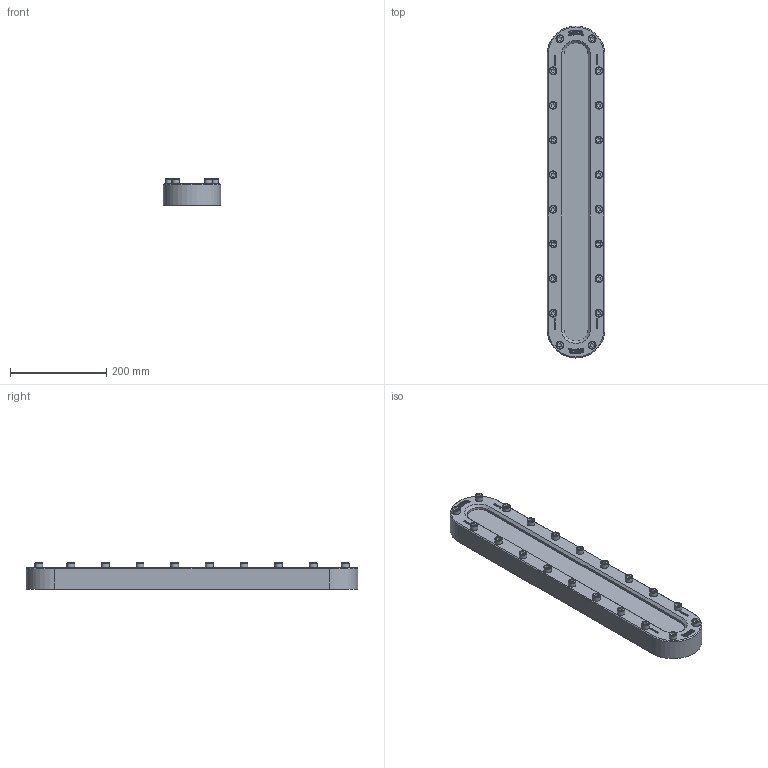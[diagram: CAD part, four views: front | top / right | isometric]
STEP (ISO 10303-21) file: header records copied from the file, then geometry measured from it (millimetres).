
FILE_DESCRIPTION(/* description */ (''),/* implementation_level */ '2;1');
FILE_NAME(/* name */ 'W:\Konstruktion_ACI\335\_Zeichnungen\STEP\ACI-335-690.stp',/* time_stamp */ '2022-03-01T17:52:56+01:00',/* author */ ('koslowksi'),/* organization */ ('ACI Industriearmaturen'),/* preprocessor_version */ 'ST-DEVELOPER v16.1',/* originating_system */ 'Autodesk Inventor 2016',/* authorisation */ '');
FILE_SCHEMA (('AUTOMOTIVE_DESIGN { 1 0 10303 214 3 1 1 }'));
Length unit declared in the file: centimetre
Products named in the file (1): ACI-335-690.stp
Bounding box: 120 x 690 x 54.9 mm (x, y, z)
Volume: 2716812.3 mm3; surface area: 273467.4 mm2
Topology: 1 solids, 1 shells, 1468 faces, 4016 edges, 2668 vertices
Faces by surface type: plane 974, bspline 424, cylinder 26, cone 24, torus 20
Full cylindrical faces by diameter (mm): 16 x20
Entity records: 48780 total; most frequent: CARTESIAN_POINT 13765, ORIENTED_EDGE 7832, DIRECTION 5114, EDGE_CURVE 3916, LINE 2872, VECTOR 2872, VERTEX_POINT 2628, EDGE_LOOP 1646
